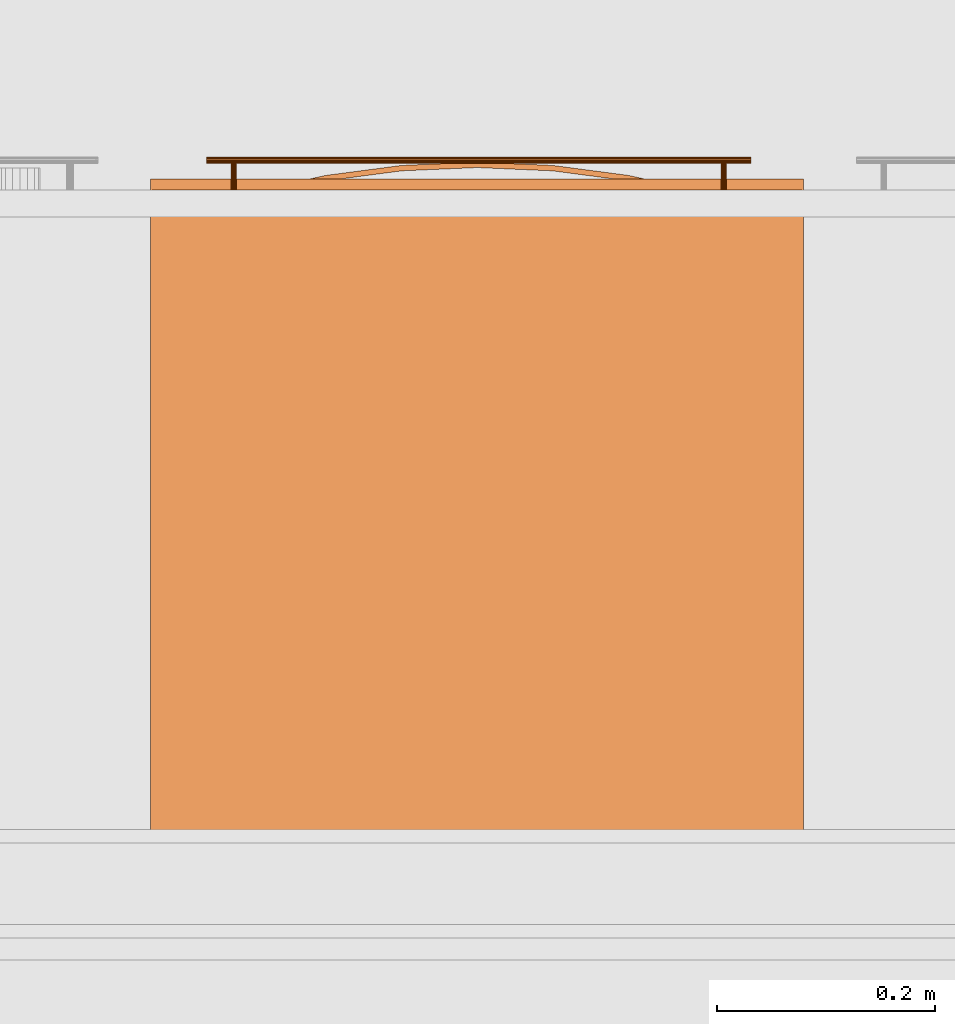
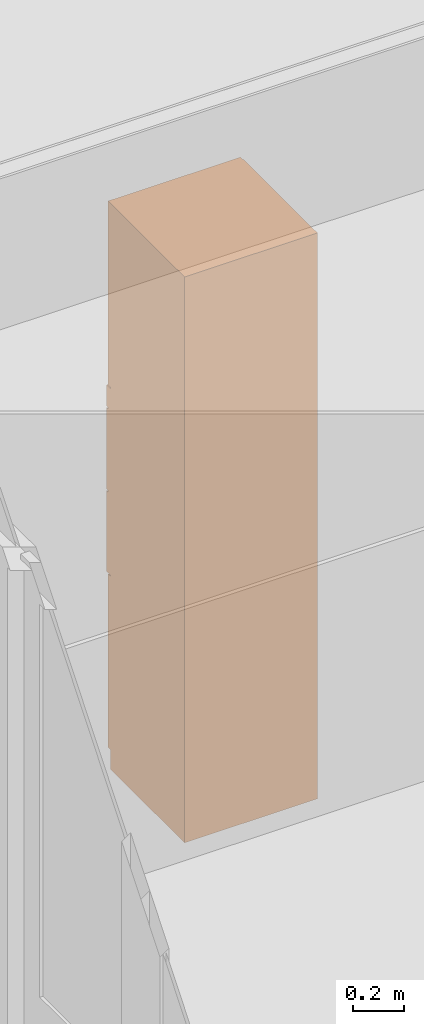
# One storey, part 138 of 167: 1 proxy.
"""IFC2X3 building model written with IfcOpenShell, lengths in millimetres."""

from ifc_helpers import new_model, entity, si_unit, converted_unit, derived_unit, money_unit, direction, frame, origin_with_axes, place, context, subcontext, project, spatial, open_shell, faceted_brep, surface_model, type_object, element, save


model = new_model("IFC2X3")

# Units and contexts
model_context = context("Model", 3, precision=0.01, world=origin_with_axes(), true_north=direction((0.0, 1.0)))
plan_context = context("Plan", 3, precision=0.01, world=origin_with_axes(), true_north=direction((0.0, 1.0)))
body_context = subcontext(model_context, "Body", "Model", "MODEL_VIEW")
ifc_project = project(units=[si_unit("LENGTHUNIT", "METRE", prefix="MILLI"), si_unit("AREAUNIT", "SQUARE_METRE"), si_unit("VOLUMEUNIT", "CUBIC_METRE"), converted_unit("PLANEANGLEUNIT", "DEGREE", entity("IfcPlaneAngleMeasure", 0.0174532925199), si_unit("PLANEANGLEUNIT", "RADIAN"), dimensions=[0, 0, 0, 0, 0, 0, 0]), si_unit("SOLIDANGLEUNIT", "STERADIAN"), money_unit("EUR"), converted_unit("TIMEUNIT", "Year", entity("IfcTimeMeasure", 31556926.0), si_unit("TIMEUNIT", "SECOND"), dimensions=[0, 0, 1, 0, 0, 0, 0]), si_unit("MASSUNIT", "GRAM", prefix="KILO"), si_unit("THERMODYNAMICTEMPERATUREUNIT", "DEGREE_CELSIUS"), si_unit("LUMINOUSINTENSITYUNIT", "LUMEN"), si_unit("ENERGYUNIT", "JOULE", prefix="MEGA"), derived_unit("THERMALCONDUCTANCEUNIT", [(si_unit("POWERUNIT", "WATT"), 1), (si_unit("LENGTHUNIT", "METRE"), -1), (si_unit("THERMODYNAMICTEMPERATUREUNIT", "KELVIN"), -1)]), derived_unit("SPECIFICHEATCAPACITYUNIT", [(si_unit("ENERGYUNIT", "JOULE"), 1), (si_unit("MASSUNIT", "GRAM", prefix="KILO"), -1), (si_unit("THERMODYNAMICTEMPERATUREUNIT", "KELVIN"), -1)]), derived_unit("MASSDENSITYUNIT", [(si_unit("MASSUNIT", "GRAM", prefix="KILO"), 1), (si_unit("VOLUMEUNIT", "CUBIC_METRE"), -1)])], contexts=[model_context, plan_context])

# Site, building, storey
site_placement = place(None, origin_with_axes())
site = spatial("IfcSite", under=ifc_project, at=site_placement, Name="Site", CompositionType="ELEMENT")
building_placement = place(site_placement, origin_with_axes())
building = spatial("IfcBuilding", under=site, at=building_placement, Name="Naam gebouw", CompositionType="ELEMENT")
storey_placement = place(building_placement, origin_with_axes())
storey = spatial("IfcBuildingStorey", under=building, at=storey_placement, Name="Begane grond", CompositionType="ELEMENT", Elevation=0.0)

# Proxy
building_element_proxy_type = type_object("IfcBuildingElementProxyType", Name="Kast hoog 1D inbouwapparatuur 24", PredefinedType="NOTDEFINED")
proxy_placement = place(storey_placement, frame((27225.0, 24566.7322881, 0.0), z_axis=(0.0, 0.0, 1.0), x_axis=(-1.0, 0.0, 0.0)))
element("IfcBuildingElementProxy", 1, at=proxy_placement, inside=storey, type_object=building_element_proxy_type, Name="__Object-x", context=body_context, shape_type="SurfaceModel", body=[
    faceted_brep([(20.0, 20.0, 1810.0), (580.0, 20.0, 1810.0), (580.0, 20.0, 1830.0), (20.0, 20.0, 1830.0), (20.0, 580.0, 1810.0), (580.0, 580.0, 1810.0), (580.0, 580.0, 1830.0), (20.0, 580.0, 1830.0)], [[[0, 1, 2, 3]], [[0, 4, 5, 1]], [[1, 5, 6, 2]], [[3, 2, 6, 7]], [[4, 0, 3, 7]], [[5, 4, 7, 6]]]),
    faceted_brep([(20.0, 20.0, 910.0), (580.0, 20.0, 910.0), (580.0, 20.0, 930.0), (20.0, 20.0, 930.0), (20.0, 580.0, 910.0), (580.0, 580.0, 910.0), (580.0, 580.0, 930.0), (20.0, 580.0, 930.0)], [[[0, 1, 2, 3]], [[0, 4, 5, 1]], [[1, 5, 6, 2]], [[3, 2, 6, 7]], [[4, 0, 3, 7]], [[5, 4, 7, 6]]]),
    faceted_brep([(0.0, 20.0, 0.0), (600.0, 20.0, 0.0), (600.0, 20.0, 90.0), (0.0, 20.0, 90.0), (0.0, 600.0, 0.0), (600.0, 600.0, 0.0), (600.0, 600.0, 90.0), (0.0, 600.0, 90.0)], [[[0, 1, 2, 3]], [[0, 4, 5, 1]], [[1, 5, 6, 2]], [[3, 2, 6, 7]], [[4, 0, 3, 7]], [[5, 4, 7, 6]]]),
    faceted_brep([(0.0, 20.0, 2680.0), (20.0, 20.0, 2680.0), (20.0, 20.0, 2700.0), (0.0, 20.0, 2700.0), (0.0, 600.0, 2680.0), (20.0, 600.0, 2680.0), (580.0, 600.0, 2680.0), (600.0, 600.0, 2680.0), (600.0, 20.0, 2680.0), (580.0, 20.0, 2680.0), (580.0, 20.0, 2700.0), (600.0, 20.0, 2700.0), (600.0, 600.0, 2700.0), (580.0, 600.0, 2700.0), (20.0, 600.0, 2700.0), (0.0, 600.0, 2700.0)], [[[0, 1, 2, 3]], [[0, 4, 5, 6, 7, 8, 9, 1]], [[1, 9, 10, 2]], [[3, 2, 10, 11, 12, 13, 14, 15]], [[4, 0, 3, 15]], [[5, 4, 15, 14]], [[6, 5, 14, 13]], [[7, 6, 13, 12]], [[8, 7, 12, 11]], [[9, 8, 11, 10]]]),
    faceted_brep([(0.0, 20.0, 90.0), (20.0, 20.0, 90.0), (20.0, 20.0, 110.0), (0.0, 20.0, 110.0), (0.0, 600.0, 90.0), (20.0, 600.0, 90.0), (580.0, 600.0, 90.0), (600.0, 600.0, 90.0), (600.0, 20.0, 90.0), (580.0, 20.0, 90.0), (580.0, 20.0, 110.0), (600.0, 20.0, 110.0), (600.0, 600.0, 110.0), (580.0, 600.0, 110.0), (20.0, 600.0, 110.0), (0.0, 600.0, 110.0)], [[[0, 1, 2, 3]], [[0, 4, 5, 6, 7, 8, 9, 1]], [[1, 9, 10, 2]], [[3, 2, 10, 11, 12, 13, 14, 15]], [[4, 0, 3, 15]], [[5, 4, 15, 14]], [[6, 5, 14, 13]], [[7, 6, 13, 12]], [[8, 7, 12, 11]], [[9, 8, 11, 10]]]),
    faceted_brep([(0.0, 20.0, 110.0), (20.0, 20.0, 110.0), (20.0, 20.0, 2680.0), (0.0, 20.0, 2680.0), (0.0, 600.0, 110.0), (600.0, 600.0, 110.0), (600.0, 20.0, 110.0), (580.0, 20.0, 110.0), (580.0, 580.0, 110.0), (20.0, 580.0, 110.0), (20.0, 580.0, 2680.0), (580.0, 580.0, 2680.0), (580.0, 20.0, 2680.0), (600.0, 20.0, 2680.0), (600.0, 600.0, 2680.0), (0.0, 600.0, 2680.0)], [[[0, 1, 2, 3]], [[0, 4, 5, 6, 7, 8, 9, 1]], [[1, 9, 10, 2]], [[3, 2, 10, 11, 12, 13, 14, 15]], [[4, 0, 3, 15]], [[5, 4, 15, 14]], [[6, 5, 14, 13]], [[7, 6, 13, 12]], [[8, 7, 12, 11]], [[9, 8, 11, 10]]]),
    faceted_brep([(580.0, 20.0, 353.333333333), (580.0, 580.0, 353.333333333), (580.0, 580.0, 373.333333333), (580.0, 20.0, 373.333333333), (20.0, 20.0, 353.333333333), (20.0, 580.0, 353.333333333), (20.0, 580.0, 373.333333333), (20.0, 20.0, 373.333333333)], [[[0, 1, 2, 3]], [[0, 4, 5, 1]], [[1, 5, 6, 2]], [[3, 2, 6, 7]], [[4, 0, 3, 7]], [[5, 4, 7, 6]]]),
    faceted_brep([(580.0, 20.0, 636.666666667), (580.0, 580.0, 636.666666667), (580.0, 580.0, 656.666666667), (580.0, 20.0, 656.666666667), (20.0, 20.0, 636.666666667), (20.0, 580.0, 636.666666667), (20.0, 580.0, 656.666666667), (20.0, 20.0, 656.666666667)], [[[0, 1, 2, 3]], [[0, 4, 5, 1]], [[1, 5, 6, 2]], [[3, 2, 6, 7]], [[4, 0, 3, 7]], [[5, 4, 7, 6]]]),
    faceted_brep([(1.5, 20.0, 91.5), (598.5, 20.0, 91.5), (598.5, 0.0, 91.5), (1.5, 0.0, 91.5), (1.5, 20.0, 918.5), (598.5, 20.0, 918.5), (598.5, 0.0, 918.5), (1.5, 0.0, 918.5)], [[[0, 1, 2, 3]], [[0, 4, 5, 1]], [[1, 5, 6, 2]], [[3, 2, 6, 7]], [[4, 0, 3, 7]], [[5, 4, 7, 6]]]),
    faceted_brep([(48.5, -28.1480502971, 838.728361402), (48.5, -29.1213203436, 839.378679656), (48.5, -29.7716385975, 840.351949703), (48.5, -30.0, 841.5), (48.5, -29.7716385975, 842.648050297), (48.5, -29.1213203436, 843.621320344), (48.5, -28.1480502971, 844.271638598), (48.5, -27.0, 844.5), (48.5, -25.8519497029, 844.271638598), (48.5, -24.8786796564, 843.621320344), (48.5, -24.2283614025, 842.648050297), (48.5, -24.0, 841.5), (48.5, -24.2283614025, 840.351949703), (48.5, -24.8786796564, 839.378679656), (48.5, -25.8519497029, 838.728361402), (48.5, -27.0, 838.5), (548.5, -28.1480502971, 838.728361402), (548.5, -29.1213203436, 839.378679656), (548.5, -29.7716385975, 840.351949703), (548.5, -30.0, 841.5), (548.5, -29.7716385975, 842.648050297), (548.5, -29.1213203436, 843.621320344), (548.5, -28.1480502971, 844.271638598), (548.5, -27.0, 844.5), (548.5, -25.8519497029, 844.271638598), (548.5, -24.8786796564, 843.621320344), (548.5, -24.2283614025, 842.648050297), (548.5, -24.0, 841.5), (548.5, -24.2283614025, 840.351949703), (548.5, -24.8786796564, 839.378679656), (548.5, -25.8519497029, 838.728361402), (548.5, -27.0, 838.5)], [[[0, 1, 2, 3, 4, 5, 6, 7, 8, 9, 10, 11, 12, 13, 14, 15]], [[1, 0, 16, 17]], [[2, 1, 17, 18]], [[3, 2, 18, 19]], [[4, 3, 19, 20]], [[5, 4, 20, 21]], [[6, 5, 21, 22]], [[7, 6, 22, 23]], [[8, 7, 23, 24]], [[9, 8, 24, 25]], [[10, 9, 25, 26]], [[11, 10, 26, 27]], [[12, 11, 27, 28]], [[13, 12, 28, 29]], [[14, 13, 29, 30]], [[15, 14, 30, 31]], [[0, 15, 31, 16]], [[16, 31, 30, 29, 28, 27, 26, 25, 24, 23, 22, 21, 20, 19, 18, 17]]]),
    surface_model("IfcShellBasedSurfaceModel", [(71.1903011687, -24.156637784, 840.543291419), (71.0, -24.0, 841.5), (71.0, 0.0, 841.5), (71.1903011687, 0.0, 840.543291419), (71.1903011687, -24.156637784, 842.456708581), (71.1903011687, 0.0, 842.456708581), (71.732233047, 0.0, 843.267766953), (72.5432914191, 0.0, 843.809698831), (73.5, 0.0, 844.0), (74.4567085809, 0.0, 843.809698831), (75.267766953, 0.0, 843.267766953), (75.8096988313, 0.0, 842.456708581), (76.0, 0.0, 841.5), (75.8096988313, 0.0, 840.543291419), (75.267766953, 0.0, 839.732233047), (74.4567085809, 0.0, 839.190301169), (73.5, 0.0, 839.0), (72.5432914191, 0.0, 839.190301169), (71.732233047, 0.0, 839.732233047), (71.732233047, -24.5761600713, 839.732233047), (71.732233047, -24.5761600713, 843.267766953), (72.5432914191, -25.0855049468, 843.809698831), (73.5, -25.3416876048, 844.0), (74.4567085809, -25.0855049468, 843.809698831), (75.267766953, -24.5761600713, 843.267766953), (75.8096988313, -24.156637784, 842.456708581), (76.0, -24.0, 841.5), (75.8096988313, -24.156637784, 840.543291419), (75.267766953, -24.5761600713, 839.732233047), (74.4567085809, -25.0855049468, 839.190301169), (73.5, -25.3416876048, 839.0), (72.5432914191, -25.0855049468, 839.190301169)], [open_shell([[[0, 1, 2, 3]], [[1, 4, 5, 2]], [[3, 2, 5, 6, 7, 8, 9, 10, 11, 12, 13, 14, 15, 16, 17, 18]], [[19, 0, 3, 18]], [[4, 20, 6, 5]], [[20, 21, 7, 6]], [[21, 22, 8, 7]], [[22, 23, 9, 8]], [[23, 24, 10, 9]], [[24, 25, 11, 10]], [[25, 26, 12, 11]], [[26, 27, 13, 12]], [[27, 28, 14, 13]], [[28, 29, 15, 14]], [[29, 30, 16, 15]], [[30, 31, 17, 16]], [[31, 19, 18, 17]]])]),
    surface_model("IfcShellBasedSurfaceModel", [(521.190301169, -24.156637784, 840.543291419), (521.0, -24.0, 841.5), (521.0, 0.0, 841.5), (521.190301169, 0.0, 840.543291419), (521.190301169, -24.156637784, 842.456708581), (521.190301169, 0.0, 842.456708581), (521.732233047, 0.0, 843.267766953), (522.543291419, 0.0, 843.809698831), (523.5, 0.0, 844.0), (524.456708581, 0.0, 843.809698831), (525.267766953, 0.0, 843.267766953), (525.809698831, 0.0, 842.456708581), (526.0, 0.0, 841.5), (525.809698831, 0.0, 840.543291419), (525.267766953, 0.0, 839.732233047), (524.456708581, 0.0, 839.190301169), (523.5, 0.0, 839.0), (522.543291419, 0.0, 839.190301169), (521.732233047, 0.0, 839.732233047), (521.732233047, -24.5761600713, 839.732233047), (521.732233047, -24.5761600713, 843.267766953), (522.543291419, -25.0855049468, 843.809698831), (523.5, -25.3416876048, 844.0), (524.456708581, -25.0855049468, 843.809698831), (525.267766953, -24.5761600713, 843.267766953), (525.809698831, -24.156637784, 842.456708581), (526.0, -24.0, 841.5), (525.809698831, -24.156637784, 840.543291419), (525.267766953, -24.5761600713, 839.732233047), (524.456708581, -25.0855049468, 839.190301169), (523.5, -25.3416876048, 839.0), (522.543291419, -25.0855049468, 839.190301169)], [open_shell([[[0, 1, 2, 3]], [[1, 4, 5, 2]], [[3, 2, 5, 6, 7, 8, 9, 10, 11, 12, 13, 14, 15, 16, 17, 18]], [[19, 0, 3, 18]], [[4, 20, 6, 5]], [[20, 21, 7, 6]], [[21, 22, 8, 7]], [[22, 23, 9, 8]], [[23, 24, 10, 9]], [[24, 25, 11, 10]], [[25, 26, 12, 11]], [[26, 27, 13, 12]], [[27, 28, 14, 13]], [[28, 29, 15, 14]], [[29, 30, 16, 15]], [[30, 31, 17, 16]], [[31, 19, 18, 17]]])]),
    faceted_brep([(1.5, 20.0, 1821.5), (598.5, 20.0, 1821.5), (598.5, 0.0, 1821.5), (1.5, 0.0, 1821.5), (1.5, 20.0, 2698.5), (598.5, 20.0, 2698.5), (598.5, 0.0, 2698.5), (1.5, 0.0, 2698.5)], [[[0, 1, 2, 3]], [[0, 4, 5, 1]], [[1, 5, 6, 2]], [[3, 2, 6, 7]], [[4, 0, 3, 7]], [[5, 4, 7, 6]]]),
    faceted_brep([(48.5, -28.1480502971, 1868.7283614), (48.5, -29.1213203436, 1869.37867966), (48.5, -29.7716385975, 1870.3519497), (48.5, -30.0, 1871.5), (48.5, -29.7716385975, 1872.6480503), (48.5, -29.1213203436, 1873.62132034), (48.5, -28.1480502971, 1874.2716386), (48.5, -27.0, 1874.5), (48.5, -25.8519497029, 1874.2716386), (48.5, -24.8786796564, 1873.62132034), (48.5, -24.2283614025, 1872.6480503), (48.5, -24.0, 1871.5), (48.5, -24.2283614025, 1870.3519497), (48.5, -24.8786796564, 1869.37867966), (48.5, -25.8519497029, 1868.7283614), (48.5, -27.0, 1868.5), (548.5, -28.1480502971, 1868.7283614), (548.5, -29.1213203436, 1869.37867966), (548.5, -29.7716385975, 1870.3519497), (548.5, -30.0, 1871.5), (548.5, -29.7716385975, 1872.6480503), (548.5, -29.1213203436, 1873.62132034), (548.5, -28.1480502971, 1874.2716386), (548.5, -27.0, 1874.5), (548.5, -25.8519497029, 1874.2716386), (548.5, -24.8786796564, 1873.62132034), (548.5, -24.2283614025, 1872.6480503), (548.5, -24.0, 1871.5), (548.5, -24.2283614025, 1870.3519497), (548.5, -24.8786796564, 1869.37867966), (548.5, -25.8519497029, 1868.7283614), (548.5, -27.0, 1868.5)], [[[0, 1, 2, 3, 4, 5, 6, 7, 8, 9, 10, 11, 12, 13, 14, 15]], [[1, 0, 16, 17]], [[2, 1, 17, 18]], [[3, 2, 18, 19]], [[4, 3, 19, 20]], [[5, 4, 20, 21]], [[6, 5, 21, 22]], [[7, 6, 22, 23]], [[8, 7, 23, 24]], [[9, 8, 24, 25]], [[10, 9, 25, 26]], [[11, 10, 26, 27]], [[12, 11, 27, 28]], [[13, 12, 28, 29]], [[14, 13, 29, 30]], [[15, 14, 30, 31]], [[0, 15, 31, 16]], [[16, 31, 30, 29, 28, 27, 26, 25, 24, 23, 22, 21, 20, 19, 18, 17]]]),
    surface_model("IfcShellBasedSurfaceModel", [(71.1903011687, -24.156637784, 1870.54329142), (71.0, -24.0, 1871.5), (71.0, 0.0, 1871.5), (71.1903011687, 0.0, 1870.54329142), (71.1903011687, -24.156637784, 1872.45670858), (71.1903011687, 0.0, 1872.45670858), (71.732233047, 0.0, 1873.26776695), (72.5432914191, 0.0, 1873.80969883), (73.5, 0.0, 1874.0), (74.4567085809, 0.0, 1873.80969883), (75.267766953, 0.0, 1873.26776695), (75.8096988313, 0.0, 1872.45670858), (76.0, 0.0, 1871.5), (75.8096988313, 0.0, 1870.54329142), (75.267766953, 0.0, 1869.73223305), (74.4567085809, 0.0, 1869.19030117), (73.5, 0.0, 1869.0), (72.5432914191, 0.0, 1869.19030117), (71.732233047, 0.0, 1869.73223305), (71.732233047, -24.5761600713, 1869.73223305), (71.732233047, -24.5761600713, 1873.26776695), (72.5432914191, -25.0855049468, 1873.80969883), (73.5, -25.3416876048, 1874.0), (74.4567085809, -25.0855049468, 1873.80969883), (75.267766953, -24.5761600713, 1873.26776695), (75.8096988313, -24.156637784, 1872.45670858), (76.0, -24.0, 1871.5), (75.8096988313, -24.156637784, 1870.54329142), (75.267766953, -24.5761600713, 1869.73223305), (74.4567085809, -25.0855049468, 1869.19030117), (73.5, -25.3416876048, 1869.0), (72.5432914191, -25.0855049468, 1869.19030117)], [open_shell([[[0, 1, 2, 3]], [[1, 4, 5, 2]], [[3, 2, 5, 6, 7, 8, 9, 10, 11, 12, 13, 14, 15, 16, 17, 18]], [[19, 0, 3, 18]], [[4, 20, 6, 5]], [[20, 21, 7, 6]], [[21, 22, 8, 7]], [[22, 23, 9, 8]], [[23, 24, 10, 9]], [[24, 25, 11, 10]], [[25, 26, 12, 11]], [[26, 27, 13, 12]], [[27, 28, 14, 13]], [[28, 29, 15, 14]], [[29, 30, 16, 15]], [[30, 31, 17, 16]], [[31, 19, 18, 17]]])]),
    surface_model("IfcShellBasedSurfaceModel", [(521.190301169, -24.156637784, 1870.54329142), (521.0, -24.0, 1871.5), (521.0, 0.0, 1871.5), (521.190301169, 0.0, 1870.54329142), (521.190301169, -24.156637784, 1872.45670858), (521.190301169, 0.0, 1872.45670858), (521.732233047, 0.0, 1873.26776695), (522.543291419, 0.0, 1873.80969883), (523.5, 0.0, 1874.0), (524.456708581, 0.0, 1873.80969883), (525.267766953, 0.0, 1873.26776695), (525.809698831, 0.0, 1872.45670858), (526.0, 0.0, 1871.5), (525.809698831, 0.0, 1870.54329142), (525.267766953, 0.0, 1869.73223305), (524.456708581, 0.0, 1869.19030117), (523.5, 0.0, 1869.0), (522.543291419, 0.0, 1869.19030117), (521.732233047, 0.0, 1869.73223305), (521.732233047, -24.5761600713, 1869.73223305), (521.732233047, -24.5761600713, 1873.26776695), (522.543291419, -25.0855049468, 1873.80969883), (523.5, -25.3416876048, 1874.0), (524.456708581, -25.0855049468, 1873.80969883), (525.267766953, -24.5761600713, 1873.26776695), (525.809698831, -24.156637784, 1872.45670858), (526.0, -24.0, 1871.5), (525.809698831, -24.156637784, 1870.54329142), (525.267766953, -24.5761600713, 1869.73223305), (524.456708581, -25.0855049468, 1869.19030117), (523.5, -25.3416876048, 1869.0), (522.543291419, -25.0855049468, 1869.19030117)], [open_shell([[[0, 1, 2, 3]], [[1, 4, 5, 2]], [[3, 2, 5, 6, 7, 8, 9, 10, 11, 12, 13, 14, 15, 16, 17, 18]], [[19, 0, 3, 18]], [[4, 20, 6, 5]], [[20, 21, 7, 6]], [[21, 22, 8, 7]], [[22, 23, 9, 8]], [[23, 24, 10, 9]], [[24, 25, 11, 10]], [[25, 26, 12, 11]], [[26, 27, 13, 12]], [[27, 28, 14, 13]], [[28, 29, 15, 14]], [[29, 30, 16, 15]], [[30, 31, 17, 16]], [[31, 19, 18, 17]]])]),
    faceted_brep([(0.0, 20.0, 925.0), (600.0, 20.0, 925.0), (600.0, 0.0, 925.0), (0.0, 0.0, 925.0), (0.0, 20.0, 1815.0), (600.0, 20.0, 1815.0), (110.0, 20.0, 1023.88888889), (490.0, 20.0, 1023.88888889), (490.0, 20.0, 1221.66666667), (110.0, 20.0, 1221.66666667), (110.0, 20.0, 1419.44444444), (490.0, 20.0, 1419.44444444), (490.0, 20.0, 1617.22222222), (110.0, 20.0, 1617.22222222), (600.0, 0.0, 1815.0), (0.0, 0.0, 1815.0), (110.0, 0.0, 1023.88888889), (110.0, 0.0, 1221.66666667), (490.0, 0.0, 1221.66666667), (490.0, 0.0, 1023.88888889), (110.0, 0.0, 1419.44444444), (110.0, 0.0, 1617.22222222), (490.0, 0.0, 1617.22222222), (490.0, 0.0, 1419.44444444)], [[[0, 1, 2, 3]], [[0, 4, 5, 1], [6, 7, 8, 9], [10, 11, 12, 13]], [[1, 5, 14, 2]], [[3, 2, 14, 15], [16, 17, 18, 19], [20, 21, 22, 23]], [[4, 0, 3, 15]], [[5, 4, 15, 14]], [[7, 6, 16, 19]], [[8, 7, 19, 18]], [[9, 8, 18, 17]], [[6, 9, 17, 16]], [[11, 10, 20, 23]], [[12, 11, 23, 22]], [[13, 12, 22, 21]], [[10, 13, 21, 20]]]),
    faceted_brep([(110.0, 15.0, 1023.88888889), (490.0, 15.0, 1023.88888889), (490.0, 5.0, 1023.88888889), (110.0, 5.0, 1023.88888889), (110.0, 15.0, 1221.66666667), (490.0, 15.0, 1221.66666667), (490.0, 5.0, 1221.66666667), (110.0, 5.0, 1221.66666667)], [[[0, 1, 2, 3]], [[0, 4, 5, 1]], [[1, 5, 6, 2]], [[3, 2, 6, 7]], [[4, 0, 3, 7]], [[5, 4, 7, 6]]]),
    faceted_brep([(110.0, 15.0, 1419.44444444), (490.0, 15.0, 1419.44444444), (490.0, 5.0, 1419.44444444), (110.0, 5.0, 1419.44444444), (110.0, 15.0, 1617.22222222), (490.0, 15.0, 1617.22222222), (490.0, 5.0, 1617.22222222), (110.0, 5.0, 1617.22222222)], [[[0, 1, 2, 3]], [[0, 4, 5, 1]], [[1, 5, 6, 2]], [[3, 2, 6, 7]], [[4, 0, 3, 7]], [[5, 4, 7, 6]]]),
    faceted_brep([(0.0, -10.0, 925.0), (100.0, -10.0, 925.0), (100.0, -10.0, 1310.55555556), (0.0, -10.0, 1310.55555556), (0.0, 0.0, 925.0), (100.0, 0.0, 925.0), (100.0, 0.0, 1310.55555556), (0.0, 0.0, 1310.55555556)], [[[0, 1, 2, 3]], [[0, 4, 5, 1]], [[1, 5, 6, 2]], [[3, 2, 6, 7]], [[4, 0, 3, 7]], [[5, 4, 7, 6]]]),
    faceted_brep([(0.0, -10.0, 1320.55555556), (100.0, -10.0, 1320.55555556), (100.0, -10.0, 1706.11111111), (0.0, -10.0, 1706.11111111), (0.0, 0.0, 1320.55555556), (100.0, 0.0, 1320.55555556), (100.0, 0.0, 1706.11111111), (0.0, 0.0, 1706.11111111)], [[[0, 1, 2, 3]], [[0, 4, 5, 1]], [[1, 5, 6, 2]], [[3, 2, 6, 7]], [[4, 0, 3, 7]], [[5, 4, 7, 6]]]),
    faceted_brep([(500.0, -10.0, 925.0), (600.0, -10.0, 925.0), (600.0, -10.0, 1310.55555556), (500.0, -10.0, 1310.55555556), (500.0, 0.0, 925.0), (600.0, 0.0, 925.0), (600.0, 0.0, 1310.55555556), (500.0, 0.0, 1310.55555556)], [[[0, 1, 2, 3]], [[0, 4, 5, 1]], [[1, 5, 6, 2]], [[3, 2, 6, 7]], [[4, 0, 3, 7]], [[5, 4, 7, 6]]]),
    faceted_brep([(500.0, -10.0, 1320.55555556), (600.0, -10.0, 1320.55555556), (600.0, -10.0, 1706.11111111), (500.0, -10.0, 1706.11111111), (500.0, 0.0, 1320.55555556), (600.0, 0.0, 1320.55555556), (600.0, 0.0, 1706.11111111), (500.0, 0.0, 1706.11111111)], [[[0, 1, 2, 3]], [[0, 4, 5, 1]], [[1, 5, 6, 2]], [[3, 2, 6, 7]], [[4, 0, 3, 7]], [[5, 4, 7, 6]]]),
    faceted_brep([(0.0, 0.0, 1716.11111111), (100.0, 0.0, 1716.11111111), (100.0, -10.0, 1716.11111111), (0.0, -10.0, 1716.11111111), (0.0, 0.0, 1815.0), (600.0, 0.0, 1815.0), (600.0, 0.0, 1716.11111111), (500.0, 0.0, 1716.11111111), (500.0, 0.0, 1795.22222222), (100.0, 0.0, 1795.22222222), (100.0, -10.0, 1795.22222222), (500.0, -10.0, 1795.22222222), (500.0, -10.0, 1716.11111111), (600.0, -10.0, 1716.11111111), (600.0, -10.0, 1815.0), (0.0, -10.0, 1815.0)], [[[0, 1, 2, 3]], [[0, 4, 5, 6, 7, 8, 9, 1]], [[1, 9, 10, 2]], [[3, 2, 10, 11, 12, 13, 14, 15]], [[4, 0, 3, 15]], [[5, 4, 15, 14]], [[6, 5, 14, 13]], [[7, 6, 13, 12]], [[8, 7, 12, 11]], [[9, 8, 11, 10]]]),
    faceted_brep([(101.316675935, 0.0, 1254.62962963), (161.081457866, -13.2495331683, 1254.62962963), (161.081457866, -13.2495331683, 1287.59259259), (101.316675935, 0.0, 1287.59259259), (498.683324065, 0.0, 1254.62962963), (438.918542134, -13.2495331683, 1254.62962963), (369.724594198, -22.3590892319, 1254.62962963), (300.0, -25.4033307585, 1254.62962963), (230.275405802, -22.3590892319, 1254.62962963), (124.395820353, 0.0, 1254.62962963), (161.949698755, -8.32549440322, 1254.62962963), (230.711184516, -17.3781157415, 1254.62962963), (300.0, -20.4033307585, 1254.62962963), (369.288815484, -17.3781157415, 1254.62962963), (438.050301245, -8.32549440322, 1254.62962963), (475.604179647, 0.0, 1254.62962963), (230.275405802, -22.3590892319, 1287.59259259), (300.0, -25.4033307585, 1287.59259259), (369.724594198, -22.3590892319, 1287.59259259), (438.918542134, -13.2495331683, 1287.59259259), (498.683324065, 0.0, 1287.59259259), (475.604179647, 0.0, 1287.59259259), (438.050301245, -8.32549440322, 1287.59259259), (369.288815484, -17.3781157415, 1287.59259259), (300.0, -20.4033307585, 1287.59259259), (230.711184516, -17.3781157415, 1287.59259259), (161.949698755, -8.32549440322, 1287.59259259), (124.395820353, 0.0, 1287.59259259)], [[[0, 1, 2, 3]], [[4, 5, 6, 7, 8, 1, 0, 9, 10, 11, 12, 13, 14, 15]], [[1, 8, 16, 2]], [[3, 2, 16, 17, 18, 19, 20, 21, 22, 23, 24, 25, 26, 27]], [[0, 3, 27, 9]], [[5, 4, 20, 19]], [[6, 5, 19, 18]], [[7, 6, 18, 17]], [[8, 7, 17, 16]], [[10, 9, 27, 26]], [[11, 10, 26, 25]], [[12, 11, 25, 24]], [[13, 12, 24, 23]], [[14, 13, 23, 22]], [[15, 14, 22, 21]], [[4, 15, 21, 20]]]),
    faceted_brep([(101.316675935, 0.0, 1650.18518519), (161.081457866, -13.2495331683, 1650.18518519), (161.081457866, -13.2495331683, 1683.14814815), (101.316675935, 0.0, 1683.14814815), (498.683324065, 0.0, 1650.18518519), (438.918542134, -13.2495331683, 1650.18518519), (369.724594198, -22.3590892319, 1650.18518519), (300.0, -25.4033307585, 1650.18518519), (230.275405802, -22.3590892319, 1650.18518519), (124.395820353, 0.0, 1650.18518519), (161.949698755, -8.32549440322, 1650.18518519), (230.711184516, -17.3781157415, 1650.18518519), (300.0, -20.4033307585, 1650.18518519), (369.288815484, -17.3781157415, 1650.18518519), (438.050301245, -8.32549440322, 1650.18518519), (475.604179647, 0.0, 1650.18518519), (230.275405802, -22.3590892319, 1683.14814815), (300.0, -25.4033307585, 1683.14814815), (369.724594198, -22.3590892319, 1683.14814815), (438.918542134, -13.2495331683, 1683.14814815), (498.683324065, 0.0, 1683.14814815), (475.604179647, 0.0, 1683.14814815), (438.050301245, -8.32549440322, 1683.14814815), (369.288815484, -17.3781157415, 1683.14814815), (300.0, -20.4033307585, 1683.14814815), (230.711184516, -17.3781157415, 1683.14814815), (161.949698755, -8.32549440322, 1683.14814815), (124.395820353, 0.0, 1683.14814815)], [[[0, 1, 2, 3]], [[4, 5, 6, 7, 8, 1, 0, 9, 10, 11, 12, 13, 14, 15]], [[1, 8, 16, 2]], [[3, 2, 16, 17, 18, 19, 20, 21, 22, 23, 24, 25, 26, 27]], [[0, 3, 27, 9]], [[5, 4, 20, 19]], [[6, 5, 19, 18]], [[7, 6, 18, 17]], [[8, 7, 17, 16]], [[10, 9, 27, 26]], [[11, 10, 26, 25]], [[12, 11, 25, 24]], [[13, 12, 24, 23]], [[14, 13, 23, 22]], [[15, 14, 22, 21]], [[4, 15, 21, 20]]]),
])

save(model, "model.ifc")
